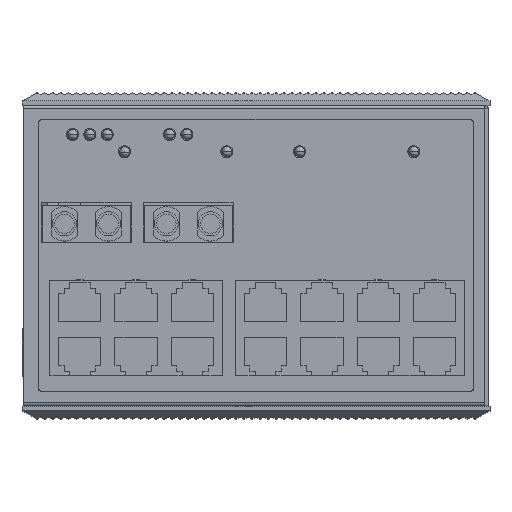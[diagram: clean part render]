
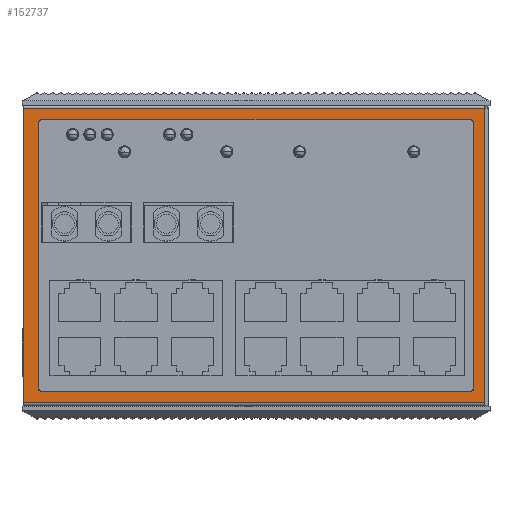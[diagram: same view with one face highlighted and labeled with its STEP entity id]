
A CAD part, top view. The second image highlights one B-rep face of the part: STEP entity #152737.
In plain terms, the highlighted planar face has unit normal (0, 0, 1).
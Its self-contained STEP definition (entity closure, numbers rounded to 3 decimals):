
#143662=DIRECTION('',(0.,-1.,0.));
#143663=VECTOR('',#143662,84.8);
#143664=CARTESIAN_POINT('',(66.7,84.85,70.86));
#143665=LINE('',#143664,#143663);
#143674=CARTESIAN_POINT('',(62.5,4.15,70.86));
#143675=DIRECTION('',(0.,0.,-1.));
#143676=DIRECTION('',(1.,0.,0.));
#143677=AXIS2_PLACEMENT_3D('',#143674,#143675,#143676);
#143679=DIRECTION('',(0.,-1.,0.));
#143680=VECTOR('',#143679,76.6);
#143681=CARTESIAN_POINT('',(63.5,80.75,70.86));
#143682=LINE('',#143681,#143680);
#143683=CARTESIAN_POINT('',(62.5,80.75,70.86));
#143684=DIRECTION('',(0.,0.,-1.));
#143685=DIRECTION('',(0.,1.,0.));
#143686=AXIS2_PLACEMENT_3D('',#143683,#143684,#143685);
#143688=DIRECTION('',(1.,0.,0.));
#143689=VECTOR('',#143688,123.6);
#143690=CARTESIAN_POINT('',(-61.1,81.75,70.86));
#143691=LINE('',#143690,#143689);
#143692=CARTESIAN_POINT('',(-61.1,80.75,70.86));
#143693=DIRECTION('',(0.,0.,-1.));
#143694=DIRECTION('',(-1.,0.,0.));
#143695=AXIS2_PLACEMENT_3D('',#143692,#143693,#143694);
#143697=DIRECTION('',(0.,1.,0.));
#143698=VECTOR('',#143697,76.6);
#143699=CARTESIAN_POINT('',(-62.1,4.15,70.86));
#143700=LINE('',#143699,#143698);
#143701=CARTESIAN_POINT('',(-61.1,4.15,70.86));
#143702=DIRECTION('',(0.,0.,-1.));
#143703=DIRECTION('',(0.,-1.,0.));
#143704=AXIS2_PLACEMENT_3D('',#143701,#143702,#143703);
#143706=DIRECTION('',(-1.,0.,0.));
#143707=VECTOR('',#143706,123.6);
#143708=CARTESIAN_POINT('',(62.5,3.15,70.86));
#143709=LINE('',#143708,#143707);
#143714=DIRECTION('',(1.,0.,0.));
#143715=VECTOR('',#143714,133.);
#143716=CARTESIAN_POINT('',(-66.3,84.85,70.86));
#143717=LINE('',#143716,#143715);
#147861=DIRECTION('',(0.,1.,0.));
#147862=VECTOR('',#147861,84.8);
#147863=CARTESIAN_POINT('',(-66.3,0.05,70.86));
#147864=LINE('',#147863,#147862);
#147899=DIRECTION('',(-1.,0.,0.));
#147900=VECTOR('',#147899,133.);
#147901=CARTESIAN_POINT('',(66.7,0.05,70.86));
#147902=LINE('',#147901,#147900);
#148905=CARTESIAN_POINT('',(-66.3,84.85,70.86));
#148906=VERTEX_POINT('',#148905);
#148907=CARTESIAN_POINT('',(66.7,84.85,70.86));
#148908=VERTEX_POINT('',#148907);
#148983=CARTESIAN_POINT('',(-66.3,0.05,70.86));
#148984=VERTEX_POINT('',#148983);
#148985=CARTESIAN_POINT('',(66.7,0.05,70.86));
#148986=VERTEX_POINT('',#148985);
#149041=CARTESIAN_POINT('',(63.5,4.15,70.86));
#149042=CARTESIAN_POINT('',(62.5,3.15,70.86));
#149043=VERTEX_POINT('',#149041);
#149044=VERTEX_POINT('',#149042);
#149075=CARTESIAN_POINT('',(-61.1,3.15,70.86));
#149076=VERTEX_POINT('',#149075);
#149077=CARTESIAN_POINT('',(63.5,80.75,70.86));
#149078=VERTEX_POINT('',#149077);
#149103=CARTESIAN_POINT('',(-62.1,4.15,70.86));
#149104=VERTEX_POINT('',#149103);
#149105=CARTESIAN_POINT('',(62.5,81.75,70.86));
#149106=VERTEX_POINT('',#149105);
#149155=CARTESIAN_POINT('',(-62.1,80.75,70.86));
#149156=VERTEX_POINT('',#149155);
#149159=CARTESIAN_POINT('',(-61.1,81.75,70.86));
#149160=VERTEX_POINT('',#149159);
#152705=CARTESIAN_POINT('',(66.7,84.85,70.86));
#152706=DIRECTION('',(0.,0.,-1.));
#152707=DIRECTION('',(1.,0.,0.));
#152708=AXIS2_PLACEMENT_3D('',#152705,#152706,#152707);
#152709=PLANE('',#152708);
#152711=ORIENTED_EDGE('',*,*,#152710,.T.);
#152712=ORIENTED_EDGE('',*,*,#152695,.T.);
#152714=ORIENTED_EDGE('',*,*,#152713,.T.);
#152716=ORIENTED_EDGE('',*,*,#152715,.T.);
#152717=EDGE_LOOP('',(#152711,#152712,#152714,#152716));
#152718=FACE_OUTER_BOUND('',#152717,.F.);
#152720=ORIENTED_EDGE('',*,*,#152719,.F.);
#152722=ORIENTED_EDGE('',*,*,#152721,.F.);
#152724=ORIENTED_EDGE('',*,*,#152723,.F.);
#152726=ORIENTED_EDGE('',*,*,#152725,.F.);
#152728=ORIENTED_EDGE('',*,*,#152727,.F.);
#152730=ORIENTED_EDGE('',*,*,#152729,.F.);
#152732=ORIENTED_EDGE('',*,*,#152731,.F.);
#152734=ORIENTED_EDGE('',*,*,#152733,.F.);
#152735=EDGE_LOOP('',(#152720,#152722,#152724,#152726,#152728,#152730,#152732,
#152734));
#152736=FACE_BOUND('',#152735,.F.);
#152737=ADVANCED_FACE('',(#152718,#152736),#152709,.F.);
#143678=CIRCLE('',#143677,1.);
#143687=CIRCLE('',#143686,1.);
#143696=CIRCLE('',#143695,1.);
#143705=CIRCLE('',#143704,1.);
#152695=EDGE_CURVE('',#148908,#148986,#143665,.T.);
#152710=EDGE_CURVE('',#148906,#148908,#143717,.T.);
#152713=EDGE_CURVE('',#148986,#148984,#147902,.T.);
#152715=EDGE_CURVE('',#148984,#148906,#147864,.T.);
#152719=EDGE_CURVE('',#149043,#149044,#143678,.T.);
#152721=EDGE_CURVE('',#149078,#149043,#143682,.T.);
#152723=EDGE_CURVE('',#149106,#149078,#143687,.T.);
#152725=EDGE_CURVE('',#149160,#149106,#143691,.T.);
#152727=EDGE_CURVE('',#149156,#149160,#143696,.T.);
#152729=EDGE_CURVE('',#149104,#149156,#143700,.T.);
#152731=EDGE_CURVE('',#149076,#149104,#143705,.T.);
#152733=EDGE_CURVE('',#149044,#149076,#143709,.T.);
